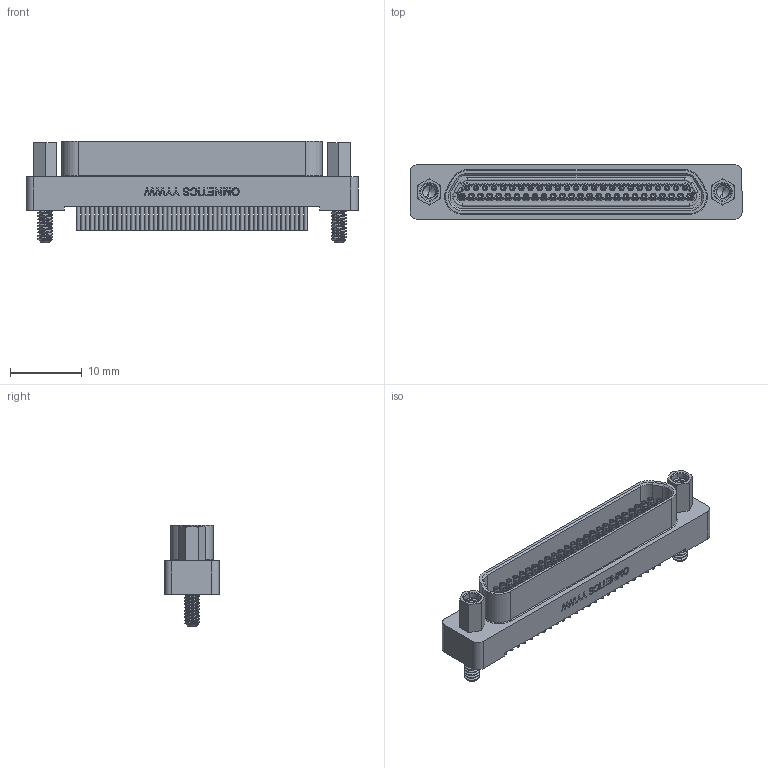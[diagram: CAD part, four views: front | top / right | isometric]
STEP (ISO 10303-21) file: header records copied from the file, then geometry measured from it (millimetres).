
FILE_DESCRIPTION (( 'STEP AP214' ), '1' );
FILE_NAME ('A99521-512 REV A.STEP', '2021-02-05T17:20:59', ( '' ), ( '' ), 'SwSTEP 2.0', 'SolidWorks 2019', '' );
FILE_SCHEMA (( 'AUTOMOTIVE_DESIGN' ));
Length unit declared in the file: inch
Products named in the file (1): A99521-512 REV A
Bounding box: 46.35 x 7.63 x 14.16 mm (x, y, z)
Volume: 1915.4 mm3; surface area: 4211.8 mm2
Topology: 1 solids, 6 shells, 1645 faces, 3836 edges, 2376 vertices
Faces by surface type: cylinder 768, plane 427, torus 217, cone 163, bspline 70
Entity records: 78745 total; most frequent: CARTESIAN_POINT 19778, DIRECTION 8354, ORIENTED_EDGE 7448, EDGE_CURVE 3724, AXIS2_PLACEMENT_3D 3454, VERTEX_POINT 2376, EDGE_LOOP 1936, CIRCLE 1878
